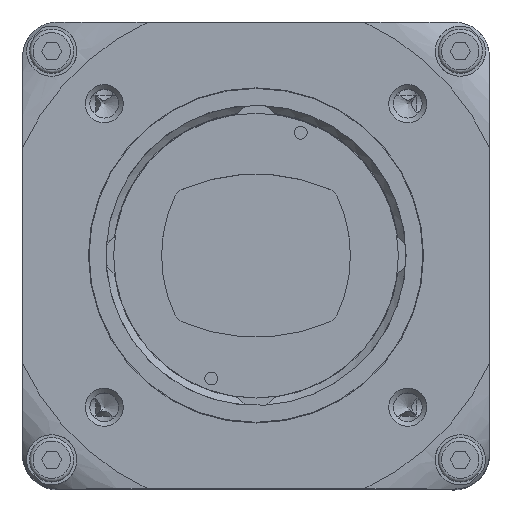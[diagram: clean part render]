
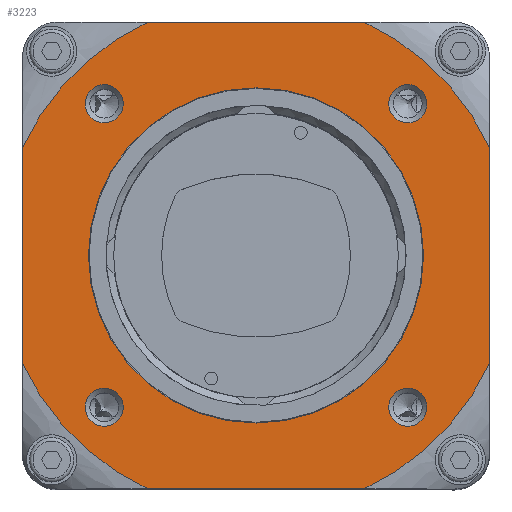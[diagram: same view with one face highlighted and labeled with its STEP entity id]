
A CAD part, top view. The second image highlights one B-rep face of the part: STEP entity #3223.
In plain terms, the highlighted planar face has unit normal (0, 0, 1).
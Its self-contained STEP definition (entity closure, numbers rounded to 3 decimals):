
#3223 = ADVANCED_FACE( '', ( #8901, #8902, #8903, #8904, #8905, #8906 ), #8907, .F. );
#8901 = FACE_BOUND( '', #17442, .T. );
#8902 = FACE_BOUND( '', #17443, .T. );
#8903 = FACE_BOUND( '', #17444, .T. );
#8904 = FACE_BOUND( '', #17445, .T. );
#8905 = FACE_BOUND( '', #17446, .T. );
#8906 = FACE_OUTER_BOUND( '', #17447, .T. );
#8907 = PLANE( '', #17448 );
#17442 = EDGE_LOOP( '', ( #29510 ) );
#17443 = EDGE_LOOP( '', ( #29511 ) );
#17444 = EDGE_LOOP( '', ( #29512 ) );
#17445 = EDGE_LOOP( '', ( #29513 ) );
#17446 = EDGE_LOOP( '', ( #29514 ) );
#17447 = EDGE_LOOP( '', ( #29515, #29516, #29517, #29518, #29519, #29520, #29521, #29522 ) );
#17448 = AXIS2_PLACEMENT_3D( '', #29523, #29524, #29525 );
#29510 = ORIENTED_EDGE( '', *, *, #53430, .T. );
#29511 = ORIENTED_EDGE( '', *, *, #53447, .T. );
#29512 = ORIENTED_EDGE( '', *, *, #53448, .T. );
#29513 = ORIENTED_EDGE( '', *, *, #53449, .T. );
#29514 = ORIENTED_EDGE( '', *, *, #53450, .T. );
#29515 = ORIENTED_EDGE( '', *, *, #53451, .F. );
#29516 = ORIENTED_EDGE( '', *, *, #53452, .T. );
#29517 = ORIENTED_EDGE( '', *, *, #53453, .F. );
#29518 = ORIENTED_EDGE( '', *, *, #53454, .T. );
#29519 = ORIENTED_EDGE( '', *, *, #53455, .F. );
#29520 = ORIENTED_EDGE( '', *, *, #53456, .T. );
#29521 = ORIENTED_EDGE( '', *, *, #53457, .F. );
#29522 = ORIENTED_EDGE( '', *, *, #53458, .T. );
#29523 = CARTESIAN_POINT( '', ( 0., 0., 12.3 ) );
#29524 = DIRECTION( '', ( 0., 0., -1. ) );
#29525 = DIRECTION( '', ( -1., 0., 0. ) );
#53430 = EDGE_CURVE( '', #64258, #64258, #64259, .T. );
#53447 = EDGE_CURVE( '', #64288, #64288, #64289, .T. );
#53448 = EDGE_CURVE( '', #64290, #64290, #64291, .T. );
#53449 = EDGE_CURVE( '', #64292, #64292, #64293, .T. );
#53450 = EDGE_CURVE( '', #64294, #64294, #64295, .T. );
#53451 = EDGE_CURVE( '', #64296, #64297, #64298, .T. );
#53452 = EDGE_CURVE( '', #64296, #64299, #64300, .T. );
#53453 = EDGE_CURVE( '', #64301, #64299, #64302, .T. );
#53454 = EDGE_CURVE( '', #64301, #64303, #64304, .T. );
#53455 = EDGE_CURVE( '', #64305, #64303, #64306, .T. );
#53456 = EDGE_CURVE( '', #64305, #64307, #64308, .T. );
#53457 = EDGE_CURVE( '', #64309, #64307, #64310, .T. );
#53458 = EDGE_CURVE( '', #64309, #64297, #64311, .T. );
#64258 = VERTEX_POINT( '', #79670 );
#64259 = CIRCLE( '', #79671, 1.63 );
#64288 = VERTEX_POINT( '', #79717 );
#64289 = CIRCLE( '', #79718, 1.63 );
#64290 = VERTEX_POINT( '', #79719 );
#64291 = CIRCLE( '', #79720, 1.63 );
#64292 = VERTEX_POINT( '', #79721 );
#64293 = CIRCLE( '', #79722, 1.63 );
#64294 = VERTEX_POINT( '', #79723 );
#64295 = CIRCLE( '', #79724, 14.35 );
#64296 = VERTEX_POINT( '', #79725 );
#64297 = VERTEX_POINT( '', #79726 );
#64298 = LINE( '', #79727, #79728 );
#64299 = VERTEX_POINT( '', #79729 );
#64300 = CIRCLE( '', #79730, 22.031 );
#64301 = VERTEX_POINT( '', #79731 );
#64302 = LINE( '', #79732, #79733 );
#64303 = VERTEX_POINT( '', #79734 );
#64304 = CIRCLE( '', #79735, 22.031 );
#64305 = VERTEX_POINT( '', #79736 );
#64306 = LINE( '', #79737, #79738 );
#64307 = VERTEX_POINT( '', #79739 );
#64308 = CIRCLE( '', #79740, 22.031 );
#64309 = VERTEX_POINT( '', #79741 );
#64310 = LINE( '', #79742, #79743 );
#64311 = CIRCLE( '', #79744, 22.031 );
#79670 = CARTESIAN_POINT( '', ( 11.371, -13., 12.3 ) );
#79671 = AXIS2_PLACEMENT_3D( '', #100082, #100083, #100084 );
#79717 = CARTESIAN_POINT( '', ( -14.63, -13., 12.3 ) );
#79718 = AXIS2_PLACEMENT_3D( '', #100098, #100099, #100100 );
#79719 = CARTESIAN_POINT( '', ( -14.63, 13., 12.3 ) );
#79720 = AXIS2_PLACEMENT_3D( '', #100101, #100102, #100103 );
#79721 = CARTESIAN_POINT( '', ( 11.371, 13., 12.3 ) );
#79722 = AXIS2_PLACEMENT_3D( '', #100104, #100105, #100106 );
#79723 = CARTESIAN_POINT( '', ( 14.35, 0., 12.3 ) );
#79724 = AXIS2_PLACEMENT_3D( '', #100107, #100108, #100109 );
#79725 = CARTESIAN_POINT( '', ( -9.238, 20., 12.3 ) );
#79726 = CARTESIAN_POINT( '', ( 9.238, 20., 12.3 ) );
#79727 = CARTESIAN_POINT( '', ( -20., 20., 12.3 ) );
#79728 = VECTOR( '', #100110, 1000. );
#79729 = CARTESIAN_POINT( '', ( -20., 9.238, 12.3 ) );
#79730 = AXIS2_PLACEMENT_3D( '', #100111, #100112, #100113 );
#79731 = CARTESIAN_POINT( '', ( -20., -9.238, 12.3 ) );
#79732 = CARTESIAN_POINT( '', ( -20., -20., 12.3 ) );
#79733 = VECTOR( '', #100114, 1000. );
#79734 = CARTESIAN_POINT( '', ( -9.238, -20., 12.3 ) );
#79735 = AXIS2_PLACEMENT_3D( '', #100115, #100116, #100117 );
#79736 = CARTESIAN_POINT( '', ( 9.238, -20., 12.3 ) );
#79737 = CARTESIAN_POINT( '', ( 20., -20., 12.3 ) );
#79738 = VECTOR( '', #100118, 1000. );
#79739 = CARTESIAN_POINT( '', ( 20., -9.238, 12.3 ) );
#79740 = AXIS2_PLACEMENT_3D( '', #100119, #100120, #100121 );
#79741 = CARTESIAN_POINT( '', ( 20., 9.238, 12.3 ) );
#79742 = CARTESIAN_POINT( '', ( 20., 20., 12.3 ) );
#79743 = VECTOR( '', #100122, 1000. );
#79744 = AXIS2_PLACEMENT_3D( '', #100123, #100124, #100125 );
#100082 = CARTESIAN_POINT( '', ( 13., -13., 12.3 ) );
#100083 = DIRECTION( '', ( 0., 0., -1. ) );
#100084 = DIRECTION( '', ( -1., 0., 0. ) );
#100098 = CARTESIAN_POINT( '', ( -13., -13., 12.3 ) );
#100099 = DIRECTION( '', ( 0., 0., -1. ) );
#100100 = DIRECTION( '', ( -1., 0., 0. ) );
#100101 = CARTESIAN_POINT( '', ( -13., 13., 12.3 ) );
#100102 = DIRECTION( '', ( 0., 0., -1. ) );
#100103 = DIRECTION( '', ( -1., 0., 0. ) );
#100104 = CARTESIAN_POINT( '', ( 13., 13., 12.3 ) );
#100105 = DIRECTION( '', ( 0., 0., -1. ) );
#100106 = DIRECTION( '', ( -1., 0., 0. ) );
#100107 = CARTESIAN_POINT( '', ( 0., 0., 12.3 ) );
#100108 = DIRECTION( '', ( 0., 0., -1. ) );
#100109 = DIRECTION( '', ( 1., 0., 0. ) );
#100110 = DIRECTION( '', ( 1., 0., 0. ) );
#100111 = CARTESIAN_POINT( '', ( 0., 0., 12.3 ) );
#100112 = DIRECTION( '', ( 0., 0., 1. ) );
#100113 = DIRECTION( '', ( 1., 0., 0. ) );
#100114 = DIRECTION( '', ( 0., 1., 0. ) );
#100115 = CARTESIAN_POINT( '', ( 0., 0., 12.3 ) );
#100116 = DIRECTION( '', ( 0., 0., 1. ) );
#100117 = DIRECTION( '', ( 1., 0., 0. ) );
#100118 = DIRECTION( '', ( -1., 0., 0. ) );
#100119 = CARTESIAN_POINT( '', ( 0., 0., 12.3 ) );
#100120 = DIRECTION( '', ( 0., 0., 1. ) );
#100121 = DIRECTION( '', ( 1., 0., 0. ) );
#100122 = DIRECTION( '', ( 0., -1., 0. ) );
#100123 = CARTESIAN_POINT( '', ( 0., 0., 12.3 ) );
#100124 = DIRECTION( '', ( 0., 0., 1. ) );
#100125 = DIRECTION( '', ( 1., 0., 0. ) );
